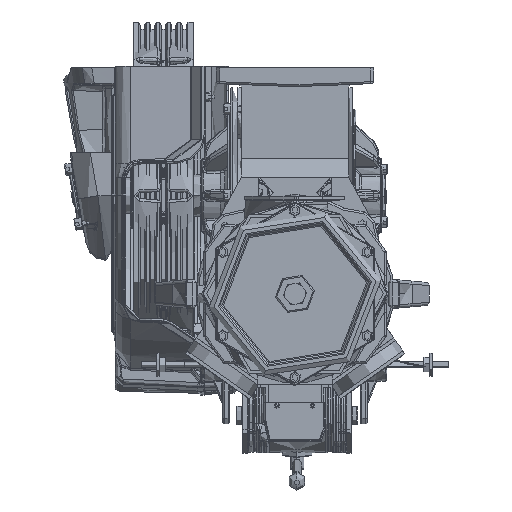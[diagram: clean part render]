
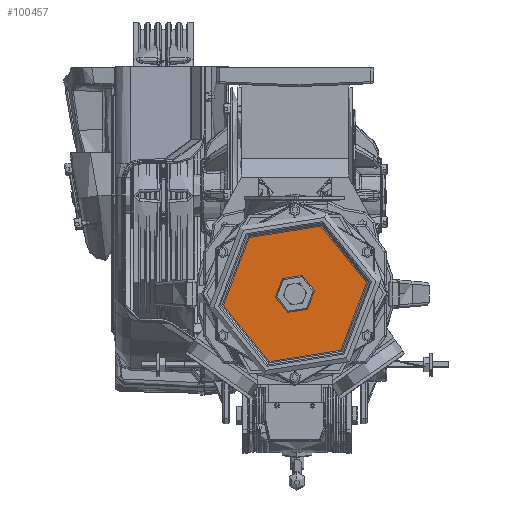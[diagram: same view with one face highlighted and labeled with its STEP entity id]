
A CAD part, front view. The second image highlights one B-rep face of the part: STEP entity #100457.
In plain terms, the highlighted planar face has unit normal (0, -1, 0).
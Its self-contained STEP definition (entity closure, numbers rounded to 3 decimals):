
#6987 = AXIS2_PLACEMENT_3D ( 'NONE', #213309, #136651, #10407 ) ;
#10407 = DIRECTION ( 'NONE',  ( -0.358, 0., -0.934 ) ) ;
#17120 = DIRECTION ( 'NONE',  ( -0.358, 0., -0.934 ) ) ;
#18357 = EDGE_CURVE ( 'NONE', #214197, #327638, #28049, .T. ) ;
#22749 = AXIS2_PLACEMENT_3D ( 'NONE', #220408, #198227, #276570 ) ;
#28049 = CIRCLE ( 'NONE', #22749, 30.156 ) ;
#42695 = PLANE ( 'NONE',  #274010 ) ;
#61405 = ORIENTED_EDGE ( 'NONE', *, *, #18357, .F. ) ;
#64913 = CARTESIAN_POINT ( 'NONE',  ( 125.325, -476.626, -63.593 ) ) ;
#68860 = CARTESIAN_POINT ( 'NONE',  ( 9.955, -476.626, -51.625 ) ) ;
#90466 = EDGE_CURVE ( 'NONE', #285227, #172181, #145685, .T. ) ;
#93900 = FACE_OUTER_BOUND ( 'NONE', #135885, .T. ) ;
#96280 = ORIENTED_EDGE ( 'NONE', *, *, #229231, .T. ) ;
#100457 = ADVANCED_FACE ( 'NONE', ( #93900, #226739 ), #42695, .T. ) ;
#101742 = DIRECTION ( 'NONE',  ( 0., -1., 0. ) ) ;
#122265 = CARTESIAN_POINT ( 'NONE',  ( 20.758, -476.626, -23.47 ) ) ;
#123994 = CIRCLE ( 'NONE', #216369, 110.757 ) ;
#135885 = EDGE_LOOP ( 'NONE', ( #237884, #96280 ) ) ;
#136651 = DIRECTION ( 'NONE',  ( 0., -1., 0. ) ) ;
#138629 = DIRECTION ( 'NONE',  ( 0., -1., 0. ) ) ;
#140987 = CARTESIAN_POINT ( 'NONE',  ( -18.919, -476.626, -126.877 ) ) ;
#145685 = CIRCLE ( 'NONE', #178490, 110.757 ) ;
#158121 = EDGE_CURVE ( 'NONE', #327638, #214197, #273887, .T. ) ;
#167494 = DIRECTION ( 'NONE',  ( -0.358, 0., -0.934 ) ) ;
#170979 = CARTESIAN_POINT ( 'NONE',  ( 60.435, -476.626, 79.936 ) ) ;
#172181 = VERTEX_POINT ( 'NONE', #170979 ) ;
#177617 = ORIENTED_EDGE ( 'NONE', *, *, #158121, .F. ) ;
#178490 = AXIS2_PLACEMENT_3D ( 'NONE', #122265, #101742, #202330 ) ;
#198227 = DIRECTION ( 'NONE',  ( 0., -1., 0. ) ) ;
#202330 = DIRECTION ( 'NONE',  ( -0.358, 0., -0.934 ) ) ;
#213309 = CARTESIAN_POINT ( 'NONE',  ( 20.758, -476.626, -23.47 ) ) ;
#214197 = VERTEX_POINT ( 'NONE', #68860 ) ;
#216369 = AXIS2_PLACEMENT_3D ( 'NONE', #327648, #138629, #167494 ) ;
#220408 = CARTESIAN_POINT ( 'NONE',  ( 20.758, -476.626, -23.47 ) ) ;
#226739 = FACE_BOUND ( 'NONE', #288759, .T. ) ;
#229231 = EDGE_CURVE ( 'NONE', #172181, #285227, #123994, .T. ) ;
#237884 = ORIENTED_EDGE ( 'NONE', *, *, #90466, .T. ) ;
#266354 = CARTESIAN_POINT ( 'NONE',  ( 31.561, -476.626, 4.685 ) ) ;
#273887 = CIRCLE ( 'NONE', #6987, 30.156 ) ;
#274010 = AXIS2_PLACEMENT_3D ( 'NONE', #64913, #330734, #17120 ) ;
#276570 = DIRECTION ( 'NONE',  ( -0.358, 0., -0.934 ) ) ;
#285227 = VERTEX_POINT ( 'NONE', #140987 ) ;
#288759 = EDGE_LOOP ( 'NONE', ( #177617, #61405 ) ) ;
#327638 = VERTEX_POINT ( 'NONE', #266354 ) ;
#327648 = CARTESIAN_POINT ( 'NONE',  ( 20.758, -476.626, -23.47 ) ) ;
#330734 = DIRECTION ( 'NONE',  ( 0., -1., 0. ) ) ;
